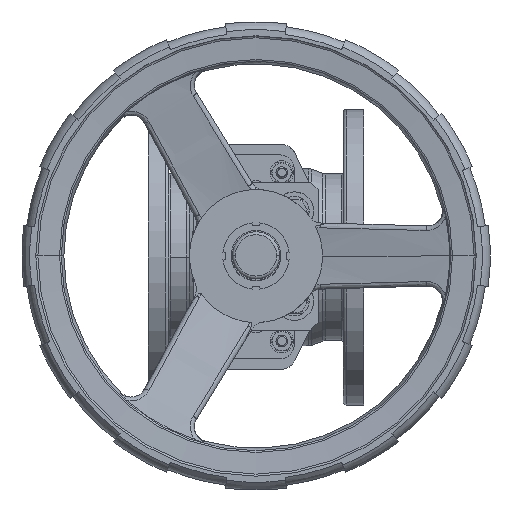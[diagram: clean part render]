
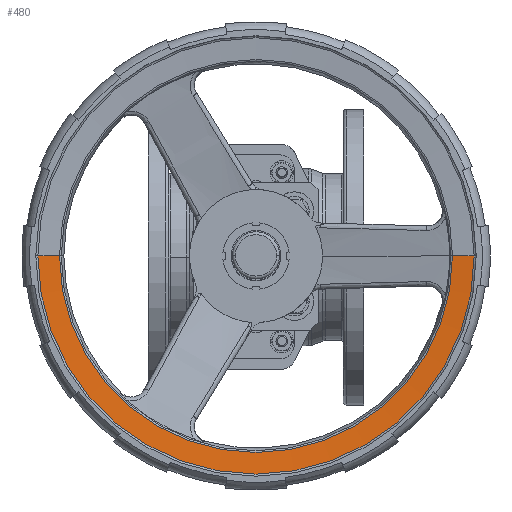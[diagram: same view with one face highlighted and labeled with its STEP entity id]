
A CAD part, top view. The second image highlights one B-rep face of the part: STEP entity #480.
In plain terms, the highlighted conical face has half-angle 85 degrees and reference radius 140.627 mm.
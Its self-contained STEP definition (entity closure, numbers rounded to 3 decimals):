
#480=ADVANCED_FACE('',(#2553),#2554,.F.);
#2553=FACE_OUTER_BOUND('',#8597,.T.);
#2554=CONICAL_SURFACE('',#8598,140.627,1.484);
#8597=EDGE_LOOP('',(#25236,#25237,#25238,#25239));
#8598=AXIS2_PLACEMENT_3D('',#25240,#25241,#25242);
#25236=ORIENTED_EDGE('',*,*,#37443,.F.);
#25237=ORIENTED_EDGE('',*,*,#37444,.F.);
#25238=ORIENTED_EDGE('',*,*,#37445,.F.);
#25239=ORIENTED_EDGE('',*,*,#37446,.F.);
#25240=CARTESIAN_POINT('',(0.,0.,492.233));
#25241=DIRECTION('',(0.,0.,1.));
#25242=DIRECTION('',(1.,0.,0.));
#37443=EDGE_CURVE('',#44149,#44272,#44273,.T.);
#37444=EDGE_CURVE('',#44151,#44149,#44274,.T.);
#37445=EDGE_CURVE('',#44275,#44151,#44276,.T.);
#37446=EDGE_CURVE('',#44272,#44275,#44277,.T.);
#44149=VERTEX_POINT('',#53787);
#44151=VERTEX_POINT('',#53789);
#44272=VERTEX_POINT('',#54108);
#44273=LINE('',#54109,#54110);
#44274=CIRCLE('',#54111,132.967);
#44275=VERTEX_POINT('',#54112);
#44276=LINE('',#54113,#54114);
#44277=CIRCLE('',#54115,147.631);
#53787=CARTESIAN_POINT('',(132.967,0.,491.562));
#53789=CARTESIAN_POINT('',(-132.967,0.,491.562));
#54108=CARTESIAN_POINT('',(147.631,0.,492.845));
#54109=CARTESIAN_POINT('',(140.627,0.,492.233));
#54110=VECTOR('',#68717,1.);
#54111=AXIS2_PLACEMENT_3D('',#68718,#68719,#68720);
#54112=CARTESIAN_POINT('',(-147.631,0.,492.845));
#54113=CARTESIAN_POINT('',(-140.627,0.,492.233));
#54114=VECTOR('',#68721,1.);
#54115=AXIS2_PLACEMENT_3D('',#68722,#68723,#68724);
#68717=DIRECTION('',(0.996,0.,0.087));
#68718=CARTESIAN_POINT('',(0.,0.,491.562));
#68719=DIRECTION('',(0.,0.,1.));
#68720=DIRECTION('',(-1.,0.,0.));
#68721=DIRECTION('',(0.996,0.,-0.087));
#68722=CARTESIAN_POINT('',(0.,0.,492.845));
#68723=DIRECTION('',(0.,0.,-1.));
#68724=DIRECTION('',(-1.,0.,0.));
